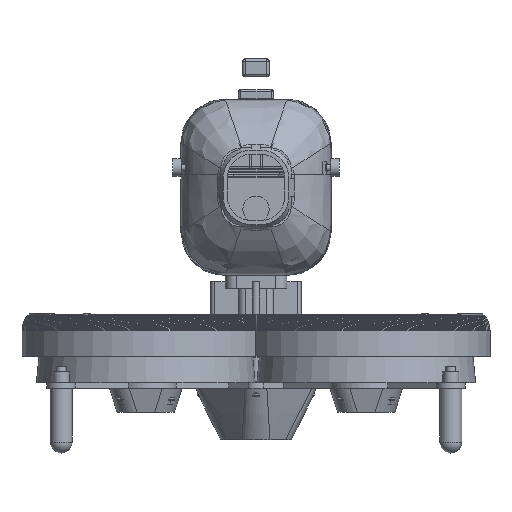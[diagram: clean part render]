
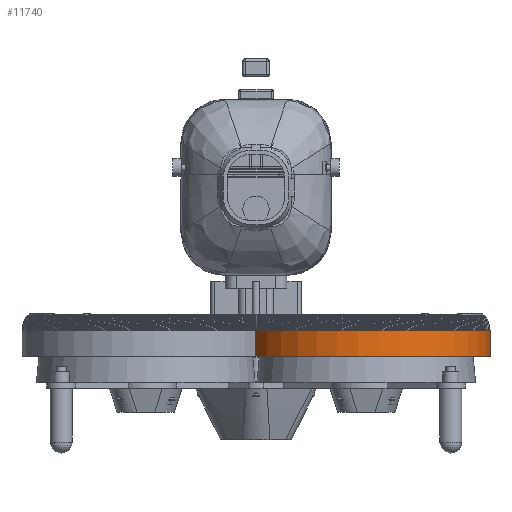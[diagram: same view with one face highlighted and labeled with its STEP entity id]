
A CAD part, front view. The second image highlights one B-rep face of the part: STEP entity #11740.
In plain terms, the highlighted cylindrical face has radius 56.5 mm (diameter 113 mm), a partial arc.
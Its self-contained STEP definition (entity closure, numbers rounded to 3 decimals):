
#2329 = PLANE('',#2330);
#2330 = AXIS2_PLACEMENT_3D('',#2331,#2332,#2333);
#2331 = CARTESIAN_POINT('',(0.,0.,-5.));
#2332 = DIRECTION('',(0.,1.,0.));
#2333 = DIRECTION('',(0.,0.,1.));
#2390 = PLANE('',#2391);
#2391 = AXIS2_PLACEMENT_3D('',#2392,#2393,#2394);
#2392 = CARTESIAN_POINT('',(0.,-150.,-5.));
#2393 = DIRECTION('',(1.,0.,0.));
#2394 = DIRECTION('',(0.,0.,1.));
#5474 = VERTEX_POINT('',#5475);
#5475 = CARTESIAN_POINT('',(76.123,0.,24.));
#5490 = CONICAL_SURFACE('',#5491,56.5,0.021);
#5491 = AXIS2_PLACEMENT_3D('',#5492,#5493,#5494);
#5492 = CARTESIAN_POINT('',(50.205,-50.205,24.));
#5493 = DIRECTION('',(-0.,-0.,-1.));
#5494 = DIRECTION('',(1.,0.,-0.));
#5505 = EDGE_CURVE('',#5506,#5474,#5508,.T.);
#5506 = VERTEX_POINT('',#5507);
#5507 = CARTESIAN_POINT('',(76.123,0.,12.));
#5508 = SURFACE_CURVE('',#5509,(#5513,#5519),.PCURVE_S1.);
#5509 = LINE('',#5510,#5511);
#5510 = CARTESIAN_POINT('',(76.123,0.,12.));
#5511 = VECTOR('',#5512,1.);
#5512 = DIRECTION('',(0.,0.,1.));
#5513 = PCURVE('',#2329,#5514);
#5514 = DEFINITIONAL_REPRESENTATION('',(#5515),#5518);
#5515 = B_SPLINE_CURVE_WITH_KNOTS('',1,(#5516,#5517),.UNSPECIFIED.,.F.,
  .F.,(2,2),(0.,12.),.PIECEWISE_BEZIER_KNOTS.);
#5516 = CARTESIAN_POINT('',(17.,76.123));
#5517 = CARTESIAN_POINT('',(29.,76.123));
#5518 = ( GEOMETRIC_REPRESENTATION_CONTEXT(2) 
PARAMETRIC_REPRESENTATION_CONTEXT() REPRESENTATION_CONTEXT('2D SPACE',''
  ) );
#5519 = PCURVE('',#5520,#5525);
#5520 = CYLINDRICAL_SURFACE('',#5521,56.5);
#5521 = AXIS2_PLACEMENT_3D('',#5522,#5523,#5524);
#5522 = CARTESIAN_POINT('',(50.205,-50.205,12.));
#5523 = DIRECTION('',(0.,0.,1.));
#5524 = DIRECTION('',(1.,0.,-0.));
#5525 = DEFINITIONAL_REPRESENTATION('',(#5526),#5529);
#5526 = B_SPLINE_CURVE_WITH_KNOTS('',1,(#5527,#5528),.UNSPECIFIED.,.F.,
  .F.,(2,2),(0.,12.),.PIECEWISE_BEZIER_KNOTS.);
#5527 = CARTESIAN_POINT('',(7.377,0.));
#5528 = CARTESIAN_POINT('',(7.377,12.));
#5529 = ( GEOMETRIC_REPRESENTATION_CONTEXT(2) 
PARAMETRIC_REPRESENTATION_CONTEXT() REPRESENTATION_CONTEXT('2D SPACE',''
  ) );
#5546 = PLANE('',#5547);
#5547 = AXIS2_PLACEMENT_3D('',#5548,#5549,#5550);
#5548 = CARTESIAN_POINT('',(50.205,-50.205,12.));
#5549 = DIRECTION('',(0.,0.,1.));
#5550 = DIRECTION('',(1.,0.,-0.));
#11692 = VERTEX_POINT('',#11693);
#11693 = CARTESIAN_POINT('',(0.,-76.123,24.));
#11718 = EDGE_CURVE('',#5474,#11692,#11719,.T.);
#11719 = SURFACE_CURVE('',#11720,(#11725,#11732),.PCURVE_S1.);
#11720 = CIRCLE('',#11721,56.5);
#11721 = AXIS2_PLACEMENT_3D('',#11722,#11723,#11724);
#11722 = CARTESIAN_POINT('',(50.205,-50.205,24.));
#11723 = DIRECTION('',(0.,0.,-1.));
#11724 = DIRECTION('',(0.459,0.889,0.));
#11725 = PCURVE('',#5490,#11726);
#11726 = DEFINITIONAL_REPRESENTATION('',(#11727),#11731);
#11727 = LINE('',#11728,#11729);
#11728 = CARTESIAN_POINT('',(-7.377,-0.));
#11729 = VECTOR('',#11730,1.);
#11730 = DIRECTION('',(1.,-0.));
#11731 = ( GEOMETRIC_REPRESENTATION_CONTEXT(2) 
PARAMETRIC_REPRESENTATION_CONTEXT() REPRESENTATION_CONTEXT('2D SPACE',''
  ) );
#11732 = PCURVE('',#5520,#11733);
#11733 = DEFINITIONAL_REPRESENTATION('',(#11734),#11738);
#11734 = LINE('',#11735,#11736);
#11735 = CARTESIAN_POINT('',(7.377,12.));
#11736 = VECTOR('',#11737,1.);
#11737 = DIRECTION('',(-1.,-0.));
#11738 = ( GEOMETRIC_REPRESENTATION_CONTEXT(2) 
PARAMETRIC_REPRESENTATION_CONTEXT() REPRESENTATION_CONTEXT('2D SPACE',''
  ) );
#11740 = ADVANCED_FACE('',(#11741),#5520,.T.);
#11741 = FACE_BOUND('',#11742,.T.);
#11742 = EDGE_LOOP('',(#11743,#11744,#11765,#11791));
#11743 = ORIENTED_EDGE('',*,*,#11718,.T.);
#11744 = ORIENTED_EDGE('',*,*,#11745,.F.);
#11745 = EDGE_CURVE('',#11746,#11692,#11748,.T.);
#11746 = VERTEX_POINT('',#11747);
#11747 = CARTESIAN_POINT('',(0.,-76.123,12.));
#11748 = SURFACE_CURVE('',#11749,(#11753,#11759),.PCURVE_S1.);
#11749 = LINE('',#11750,#11751);
#11750 = CARTESIAN_POINT('',(0.,-76.123,12.));
#11751 = VECTOR('',#11752,1.);
#11752 = DIRECTION('',(0.,0.,1.));
#11753 = PCURVE('',#5520,#11754);
#11754 = DEFINITIONAL_REPRESENTATION('',(#11755),#11758);
#11755 = B_SPLINE_CURVE_WITH_KNOTS('',1,(#11756,#11757),.UNSPECIFIED.,
  .F.,.F.,(2,2),(0.,12.),.PIECEWISE_BEZIER_KNOTS.);
#11756 = CARTESIAN_POINT('',(3.618,0.));
#11757 = CARTESIAN_POINT('',(3.618,12.));
#11758 = ( GEOMETRIC_REPRESENTATION_CONTEXT(2) 
PARAMETRIC_REPRESENTATION_CONTEXT() REPRESENTATION_CONTEXT('2D SPACE',''
  ) );
#11759 = PCURVE('',#2390,#11760);
#11760 = DEFINITIONAL_REPRESENTATION('',(#11761),#11764);
#11761 = B_SPLINE_CURVE_WITH_KNOTS('',1,(#11762,#11763),.UNSPECIFIED.,
  .F.,.F.,(2,2),(0.,12.),
  .PIECEWISE_BEZIER_KNOTS.);
#11762 = CARTESIAN_POINT('',(17.,-73.877));
#11763 = CARTESIAN_POINT('',(29.,-73.877));
#11764 = ( GEOMETRIC_REPRESENTATION_CONTEXT(2) 
PARAMETRIC_REPRESENTATION_CONTEXT() REPRESENTATION_CONTEXT('2D SPACE',''
  ) );
#11765 = ORIENTED_EDGE('',*,*,#11766,.F.);
#11766 = EDGE_CURVE('',#5506,#11746,#11767,.T.);
#11767 = SURFACE_CURVE('',#11768,(#11773,#11780),.PCURVE_S1.);
#11768 = CIRCLE('',#11769,56.5);
#11769 = AXIS2_PLACEMENT_3D('',#11770,#11771,#11772);
#11770 = CARTESIAN_POINT('',(50.205,-50.205,12.));
#11771 = DIRECTION('',(0.,0.,-1.));
#11772 = DIRECTION('',(0.459,0.889,0.));
#11773 = PCURVE('',#5520,#11774);
#11774 = DEFINITIONAL_REPRESENTATION('',(#11775),#11779);
#11775 = LINE('',#11776,#11777);
#11776 = CARTESIAN_POINT('',(7.377,0.));
#11777 = VECTOR('',#11778,1.);
#11778 = DIRECTION('',(-1.,-0.));
#11779 = ( GEOMETRIC_REPRESENTATION_CONTEXT(2) 
PARAMETRIC_REPRESENTATION_CONTEXT() REPRESENTATION_CONTEXT('2D SPACE',''
  ) );
#11780 = PCURVE('',#5546,#11781);
#11781 = DEFINITIONAL_REPRESENTATION('',(#11782),#11790);
#11782 = ( BOUNDED_CURVE() B_SPLINE_CURVE(2,(#11783,#11784,#11785,#11786
    ,#11787,#11788,#11789),.UNSPECIFIED.,.T.,.F.) 
B_SPLINE_CURVE_WITH_KNOTS((1,2,2,2,2,1),(-2.094,0.,
    2.094,4.189,6.283,8.378),
.UNSPECIFIED.) CURVE() GEOMETRIC_REPRESENTATION_ITEM() 
RATIONAL_B_SPLINE_CURVE((1.,0.5,1.,0.5,1.,0.5,1.)) REPRESENTATION_ITEM(
  '') );
#11783 = CARTESIAN_POINT('',(25.918,50.205));
#11784 = CARTESIAN_POINT('',(112.875,5.313));
#11785 = CARTESIAN_POINT('',(30.519,-47.548));
#11786 = CARTESIAN_POINT('',(-51.836,-100.409));
#11787 = CARTESIAN_POINT('',(-56.438,-2.657));
#11788 = CARTESIAN_POINT('',(-61.039,95.096));
#11789 = CARTESIAN_POINT('',(25.918,50.205));
#11790 = ( GEOMETRIC_REPRESENTATION_CONTEXT(2) 
PARAMETRIC_REPRESENTATION_CONTEXT() REPRESENTATION_CONTEXT('2D SPACE',''
  ) );
#11791 = ORIENTED_EDGE('',*,*,#5505,.T.);
